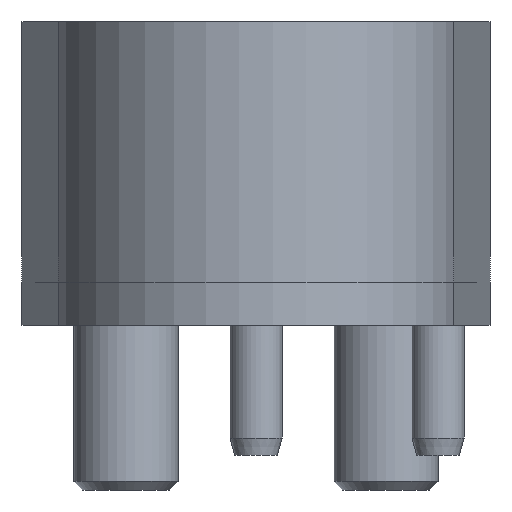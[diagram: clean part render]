
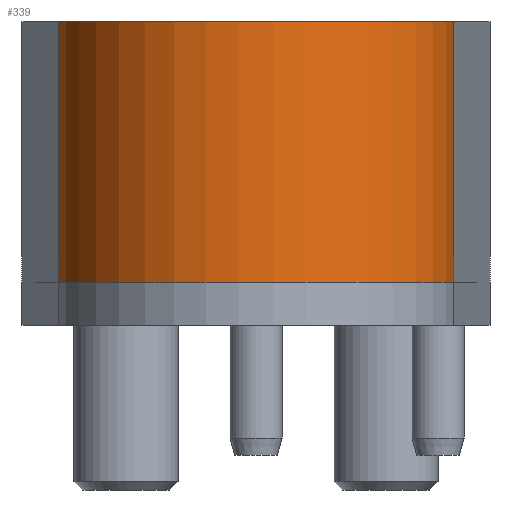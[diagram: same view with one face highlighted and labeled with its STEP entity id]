
A CAD part, left-side view. The second image highlights one B-rep face of the part: STEP entity #339.
In plain terms, the highlighted cylindrical face has radius 23 mm (diameter 46 mm), a partial arc.
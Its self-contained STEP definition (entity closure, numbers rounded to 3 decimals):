
#252=CYLINDRICAL_SURFACE('',#2658,23.);
#339=ADVANCED_FACE('',(#513),#252,.T.);
#513=FACE_OUTER_BOUND('',#663,.T.);
#663=EDGE_LOOP('',(#1149,#1150,#1151,#1152));
#845=CIRCLE('',#2656,23.);
#846=CIRCLE('',#2657,23.);
#1149=ORIENTED_EDGE('',*,*,#1941,.T.);
#1150=ORIENTED_EDGE('',*,*,#1942,.F.);
#1151=ORIENTED_EDGE('',*,*,#1943,.F.);
#1152=ORIENTED_EDGE('',*,*,#1944,.T.);
#1685=VERTEX_POINT('',#3915);
#1686=VERTEX_POINT('',#3916);
#1687=VERTEX_POINT('',#3918);
#1688=VERTEX_POINT('',#3920);
#1941=EDGE_CURVE('',#1685,#1686,#2223,.T.);
#1942=EDGE_CURVE('',#1687,#1686,#845,.T.);
#1943=EDGE_CURVE('',#1688,#1687,#2224,.T.);
#1944=EDGE_CURVE('',#1688,#1685,#846,.T.);
#2223=LINE('',#3914,#2413);
#2224=LINE('',#3919,#2414);
#2413=VECTOR('',#3104,1.);
#2414=VECTOR('',#3107,1.);
#2656=AXIS2_PLACEMENT_3D('',#3917,#3105,#3106);
#2657=AXIS2_PLACEMENT_3D('',#3921,#3108,#3109);
#2658=AXIS2_PLACEMENT_3D('',#3922,#3110,#3111);
#3104=DIRECTION('',(0.,0.,1.));
#3105=DIRECTION('',(0.,0.,1.));
#3106=DIRECTION('',(-0.106,0.994,0.));
#3107=DIRECTION('',(0.,0.,1.));
#3108=DIRECTION('',(0.,0.,1.));
#3109=DIRECTION('',(-0.106,0.994,0.));
#3110=DIRECTION('',(0.,0.,1.));
#3111=DIRECTION('',(-1.,0.,0.));
#3914=CARTESIAN_POINT('',(-3.085,-22.792,5.));
#3915=CARTESIAN_POINT('',(-3.085,-22.792,5.));
#3916=CARTESIAN_POINT('',(-3.085,-22.792,35.));
#3917=CARTESIAN_POINT('',(0.,0.,35.));
#3918=CARTESIAN_POINT('',(-3.085,22.792,35.));
#3919=CARTESIAN_POINT('',(-3.085,22.792,5.));
#3920=CARTESIAN_POINT('',(-3.085,22.792,5.));
#3921=CARTESIAN_POINT('',(0.,0.,5.));
#3922=CARTESIAN_POINT('',(0.,0.,0.));
